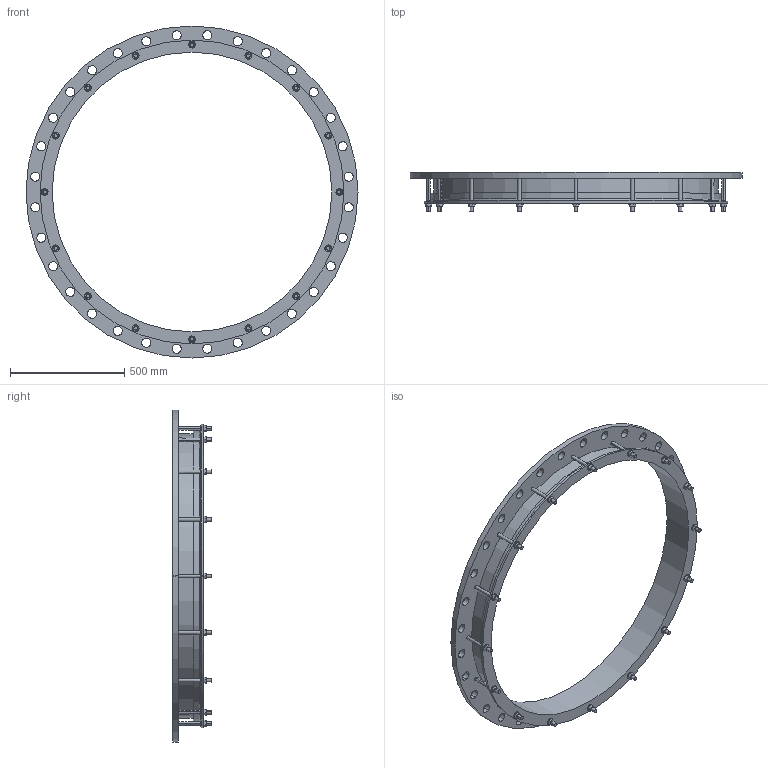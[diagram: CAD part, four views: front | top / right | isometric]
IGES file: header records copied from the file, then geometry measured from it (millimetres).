
Start section:  PTC IGES file: 1222x1200pn10.igs
Global section: file name: 1222x1200pn10.igs; native system: Creo Parametric by PTC Inc.; preprocessor: 2016130; author: mfairey; organization: Unknown; date: 20190117.113859; units: millimetre
Bounding box: 1455 x 169 x 1455 mm (x, y, z)
Surface area: 2475163 mm2 (no closed solid volume)
Topology: 0 solids, 0 shells, 322 faces, 1708 edges, 1708 vertices
Faces by surface type: revolution 174, bspline 148
